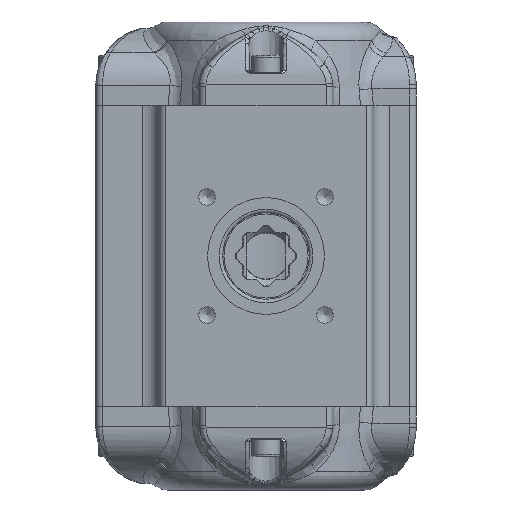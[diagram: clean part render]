
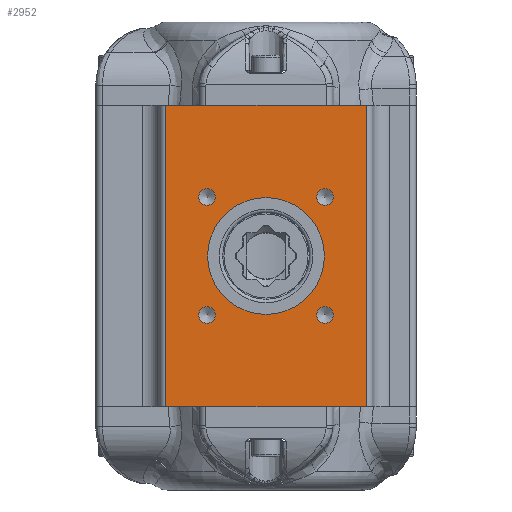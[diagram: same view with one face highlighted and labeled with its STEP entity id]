
A CAD part, front view. The second image highlights one B-rep face of the part: STEP entity #2952.
In plain terms, the highlighted planar face has unit normal (0, -1, 0).
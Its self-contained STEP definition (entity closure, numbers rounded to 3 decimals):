
#986=CARTESIAN_POINT('',(30.,-49.5,-45.15));
#987=VERTEX_POINT('',#986);
#995=CARTESIAN_POINT('',(-30.,-49.5,-45.15));
#996=VERTEX_POINT('',#995);
#997=CARTESIAN_POINT('',(-30.,-49.5,-45.15));
#998=DIRECTION('',(1.0,0.0,0.0));
#999=VECTOR('',#998,60.);
#1000=LINE('',#997,#999);
#1001=EDGE_CURVE('',#996,#987,#1000,.T.);
#1299=CARTESIAN_POINT('',(-30.,-49.5,45.15));
#1300=VERTEX_POINT('',#1299);
#1308=CARTESIAN_POINT('',(30.,-49.5,45.15));
#1309=VERTEX_POINT('',#1308);
#1310=CARTESIAN_POINT('',(30.,-49.5,45.15));
#1311=DIRECTION('',(-1.0,0.0,0.0));
#1312=VECTOR('',#1311,60.);
#1313=LINE('',#1310,#1312);
#1314=EDGE_CURVE('',#1309,#1300,#1313,.T.);
#1939=CARTESIAN_POINT('',(15.219,-49.5,-17.678));
#1940=VERTEX_POINT('',#1939);
#1941=CARTESIAN_POINT('',(17.678,-49.5,-17.678));
#1942=DIRECTION('',(0.0,1.0,0.0));
#1943=DIRECTION('',(-1.0,0.0,0.0));
#1944=AXIS2_PLACEMENT_3D('',#1941,#1942,#1943);
#1945=CIRCLE('',#1944,2.459);
#1946=EDGE_CURVE('',#1940,#1940,#1945,.T.);
#2018=CARTESIAN_POINT('',(-20.136,-49.5,17.678));
#2019=VERTEX_POINT('',#2018);
#2020=CARTESIAN_POINT('',(-17.678,-49.5,17.678));
#2021=DIRECTION('',(0.0,1.0,0.0));
#2022=DIRECTION('',(-1.0,0.0,0.0));
#2023=AXIS2_PLACEMENT_3D('',#2020,#2021,#2022);
#2024=CIRCLE('',#2023,2.459);
#2025=EDGE_CURVE('',#2019,#2019,#2024,.T.);
#2097=CARTESIAN_POINT('',(15.219,-49.5,17.678));
#2098=VERTEX_POINT('',#2097);
#2099=CARTESIAN_POINT('',(17.678,-49.5,17.678));
#2100=DIRECTION('',(0.0,1.0,0.0));
#2101=DIRECTION('',(-1.0,0.0,0.0));
#2102=AXIS2_PLACEMENT_3D('',#2099,#2100,#2101);
#2103=CIRCLE('',#2102,2.459);
#2104=EDGE_CURVE('',#2098,#2098,#2103,.T.);
#2176=CARTESIAN_POINT('',(-20.136,-49.5,-17.678));
#2177=VERTEX_POINT('',#2176);
#2178=CARTESIAN_POINT('',(-17.678,-49.5,-17.678));
#2179=DIRECTION('',(0.0,1.0,0.0));
#2180=DIRECTION('',(-1.0,0.0,0.0));
#2181=AXIS2_PLACEMENT_3D('',#2178,#2179,#2180);
#2182=CIRCLE('',#2181,2.459);
#2183=EDGE_CURVE('',#2177,#2177,#2182,.T.);
#2196=CARTESIAN_POINT('',(0.,-49.5,-17.5));
#2197=VERTEX_POINT('',#2196);
#2198=CARTESIAN_POINT('',(0.,-49.5,0.));
#2199=DIRECTION('',(0.0,1.0,0.0));
#2200=DIRECTION('',(0.0,0.0,-1.0));
#2201=AXIS2_PLACEMENT_3D('',#2198,#2199,#2200);
#2202=CIRCLE('',#2201,17.5);
#2203=EDGE_CURVE('',#2197,#2197,#2202,.T.);
#2905=CARTESIAN_POINT('',(-30.,-49.5,-45.15));
#2906=DIRECTION('',(0.0,0.0,1.0));
#2907=VECTOR('',#2906,90.3);
#2908=LINE('',#2905,#2907);
#2909=EDGE_CURVE('',#996,#1300,#2908,.T.);
#2921=CARTESIAN_POINT('',(-32.,-49.5,0.));
#2922=DIRECTION('',(0.0,-1.0,0.0));
#2923=DIRECTION('',(0.0,0.0,1.0));
#2924=AXIS2_PLACEMENT_3D('',#2921,#2922,#2923);
#2925=PLANE('',#2924);
#2926=ORIENTED_EDGE('',*,*,#2909,.F.);
#2927=ORIENTED_EDGE('',*,*,#1001,.T.);
#2928=CARTESIAN_POINT('',(30.,-49.5,45.15));
#2929=DIRECTION('',(0.0,0.0,-1.0));
#2930=VECTOR('',#2929,90.3);
#2931=LINE('',#2928,#2930);
#2932=EDGE_CURVE('',#1309,#987,#2931,.T.);
#2933=ORIENTED_EDGE('',*,*,#2932,.F.);
#2934=ORIENTED_EDGE('',*,*,#1314,.T.);
#2935=EDGE_LOOP('',(#2926,#2927,#2933,#2934));
#2936=FACE_OUTER_BOUND('',#2935,.T.);
#2937=ORIENTED_EDGE('',*,*,#1946,.T.);
#2938=EDGE_LOOP('',(#2937));
#2939=FACE_BOUND('',#2938,.T.);
#2940=ORIENTED_EDGE('',*,*,#2025,.T.);
#2941=EDGE_LOOP('',(#2940));
#2942=FACE_BOUND('',#2941,.T.);
#2943=ORIENTED_EDGE('',*,*,#2104,.T.);
#2944=EDGE_LOOP('',(#2943));
#2945=FACE_BOUND('',#2944,.T.);
#2946=ORIENTED_EDGE('',*,*,#2183,.T.);
#2947=EDGE_LOOP('',(#2946));
#2948=FACE_BOUND('',#2947,.T.);
#2949=ORIENTED_EDGE('',*,*,#2203,.T.);
#2950=EDGE_LOOP('',(#2949));
#2951=FACE_BOUND('',#2950,.T.);
#2952=ADVANCED_FACE('',(#2936,#2939,#2942,#2945,#2948,#2951),#2925,.T.);
